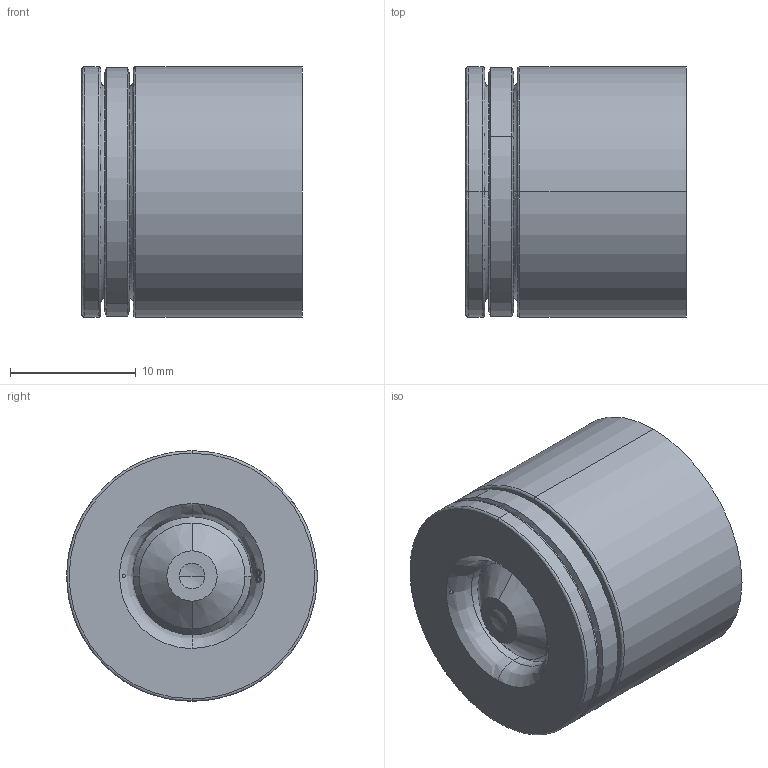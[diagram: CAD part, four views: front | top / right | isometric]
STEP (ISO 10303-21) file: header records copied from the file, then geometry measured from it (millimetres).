
FILE_DESCRIPTION (( 'STEP AP203' ), '1' );
FILE_NAME ('C0020-W149020630.STEP', '2020-04-08T15:01:17', ( '' ), ( '' ), 'SwSTEP 2.0', 'SolidWorks 2017', '' );
FILE_SCHEMA (( 'CONFIG_CONTROL_DESIGN' ));
Length unit declared in the file: metre
Products named in the file (7): PRT_FRVIR_0000008075; PRT_FRVIR_0000008072; PRT_FRVIR_0000008094; Pièce8^ASM_FRVIR_0000002706; FUR_FRVIR_0000000992_16x2Spl(cartouche); PRT_FRVIR_0000008052; C0020-W149020630
Assembly tree (6 placements, depth 2):
  C0020-W149020630
    PRT_FRVIR_0000008094
    FUR_FRVIR_0000000992_16x2Spl(cartouche)
    PRT_FRVIR_0000008072
    PRT_FRVIR_0000008052
    PRT_FRVIR_0000008075
    Pièce8^ASM_FRVIR_0000002706
Bounding box: 17.5 x 19.9 x 19.9 mm (x, y, z)
Volume: 2834.2 mm3; surface area: 4787.2 mm2
Topology: 6 solids, 6 shells, 339 faces, 862 edges, 552 vertices
Faces by surface type: plane 125, bspline 98, cylinder 62, cone 52, torus 2
Entity records: 16017 total; most frequent: CARTESIAN_POINT 7859, ORIENTED_EDGE 1720, DIRECTION 1309, EDGE_CURVE 860, VERTEX_POINT 552, AXIS2_PLACEMENT_3D 470, EDGE_LOOP 372, VECTOR 369
